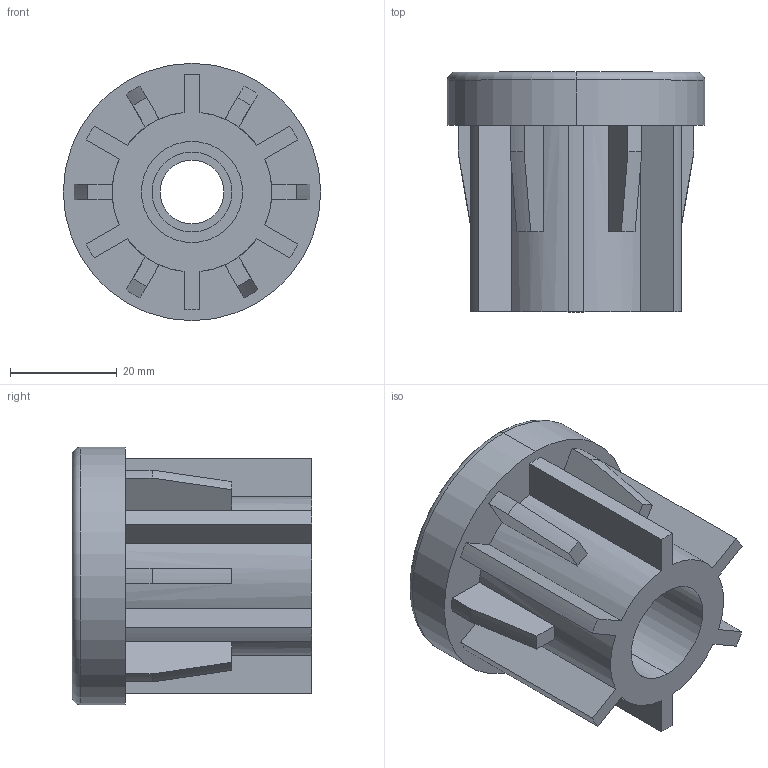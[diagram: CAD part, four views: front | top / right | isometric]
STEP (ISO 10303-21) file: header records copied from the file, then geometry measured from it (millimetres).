
FILE_DESCRIPTION (( 'STEP AP214' ), '1' );
FILE_NAME ('448-D48,3-D44,3-M14.step', '2025-04-09T11:58:33', ( '' ), ( '' ), 'SwSTEP 2.0', 'SolidWorks 2022', '' );
FILE_SCHEMA (( 'AUTOMOTIVE_DESIGN' ));
Length unit declared in the file: millimetre
Products named in the file (1): 448-D48,3-D44,3-M14
Bounding box: 48.3 x 45 x 48.3 mm (x, y, z)
Volume: 41094.9 mm3; surface area: 14797 mm2
Topology: 1 solids, 1 shells, 73 faces, 199 edges, 132 vertices
Faces by surface type: plane 36, cylinder 29, cone 6, torus 2
Entity records: 2431 total; most frequent: CARTESIAN_POINT 441, DIRECTION 415, ORIENTED_EDGE 398, EDGE_CURVE 199, AXIS2_PLACEMENT_3D 154, VERTEX_POINT 132, VECTOR 107, LINE 107
